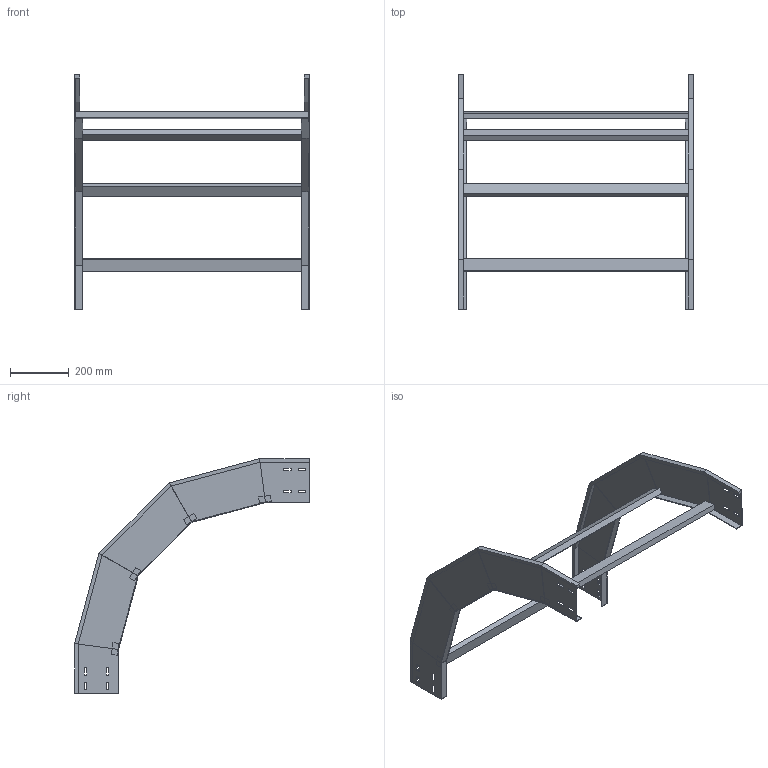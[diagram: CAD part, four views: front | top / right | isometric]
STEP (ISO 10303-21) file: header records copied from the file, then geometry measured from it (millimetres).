
FILE_DESCRIPTION (( 'STEP AP214' ), '1' );
FILE_NAME ('33J5F800.step', '2025-02-21T16:23:22', ( '' ), ( '' ), 'SwSTEP 2.0', 'SolidWorks 2023', '' );
FILE_SCHEMA (( 'AUTOMOTIVE_DESIGN' ));
Length unit declared in the file: millimetre
Products named in the file (3): TRAVERSINO_800; LONGH.DISCESA_90°_H150_R500; 33J5F800
Assembly tree (6 placements, depth 2):
  33J5F800
    LONGH.DISCESA_90°_H150_R500  x2
    TRAVERSINO_800  x4
Bounding box: 800 x 800.35 x 800.35 mm (x, y, z)
Volume: 3899781.6 mm3; surface area: 1308110.1 mm2
Topology: 6 solids, 6 shells, 172 faces, 416 edges, 256 vertices
Faces by surface type: plane 172
Entity records: 2416 total; most frequent: CARTESIAN_POINT 405, ORIENTED_EDGE 392, DIRECTION 374, LINE 196, EDGE_CURVE 196, VECTOR 196, VERTEX_POINT 120, EDGE_LOOP 96
